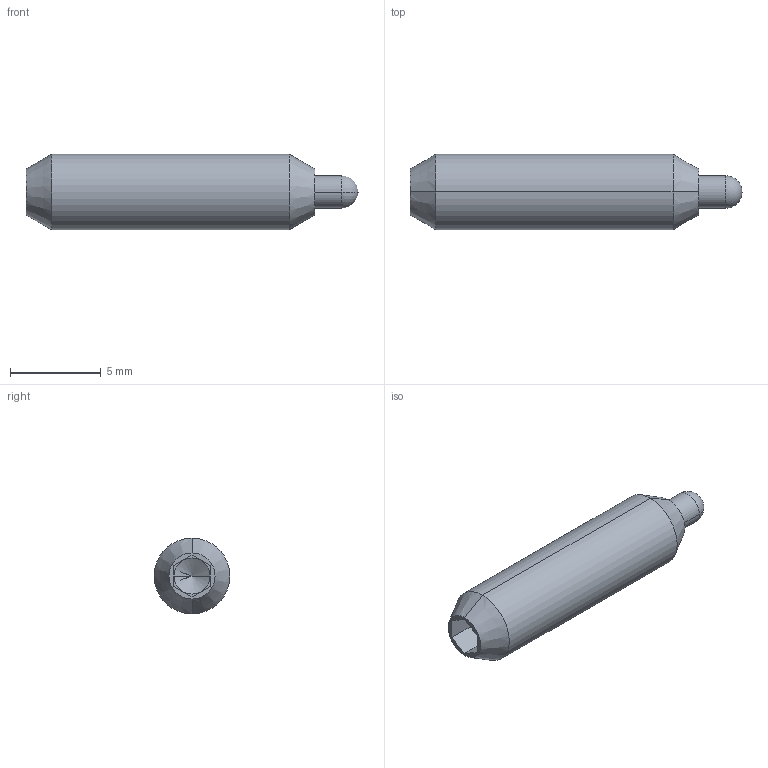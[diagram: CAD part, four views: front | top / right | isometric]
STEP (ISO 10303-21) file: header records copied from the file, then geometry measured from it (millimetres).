
FILE_DESCRIPTION (( 'STEP AP203' ), '1' );
FILE_NAME ('3B20.W136.step', '2009-10-12T13:54:25', ( 'Wixroyd' ), ( 'Wixroyd' ), 'SwSTEP 2.0', 'SolidWorks 2009', '' );
FILE_SCHEMA (( 'CONFIG_CONTROL_DESIGN' ));
Length unit declared in the file: inch
Products named in the file (3): Part1_3B20.W136; Part2_3B20.W136; 3B20.W136
Assembly tree (2 placements, depth 2):
  3B20.W136
    Part1_3B20.W136
    Part2_3B20.W136
Bounding box: 18.26 x 4.17 x 4.17 mm (x, y, z)
Volume: 155.6 mm3; surface area: 360.9 mm2
Topology: 2 solids, 2 shells, 43 faces, 92 edges, 52 vertices
Faces by surface type: plane 17, cylinder 12, cone 12, sphere 2
Entity records: 1413 total; most frequent: DIRECTION 220, CARTESIAN_POINT 184, ORIENTED_EDGE 172, EDGE_CURVE 86, AXIS2_PLACEMENT_3D 86, VERTEX_POINT 50, VECTOR 48, LINE 48
